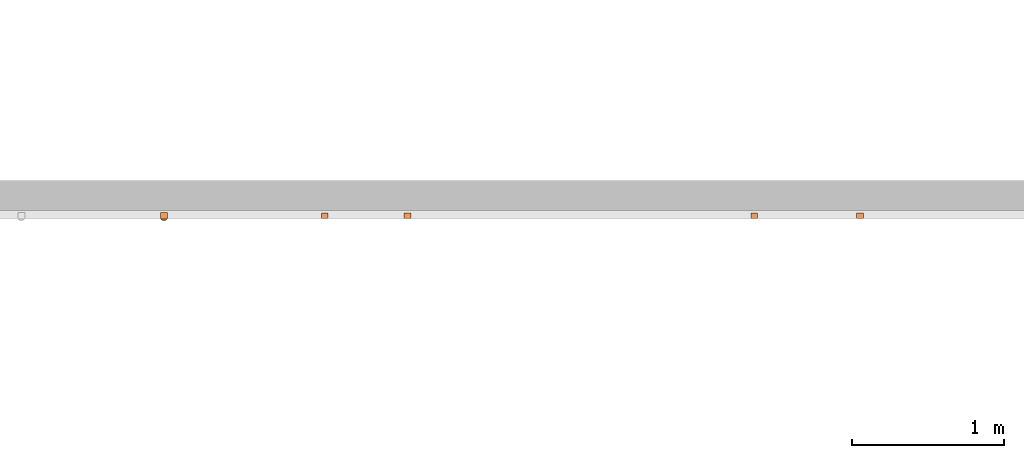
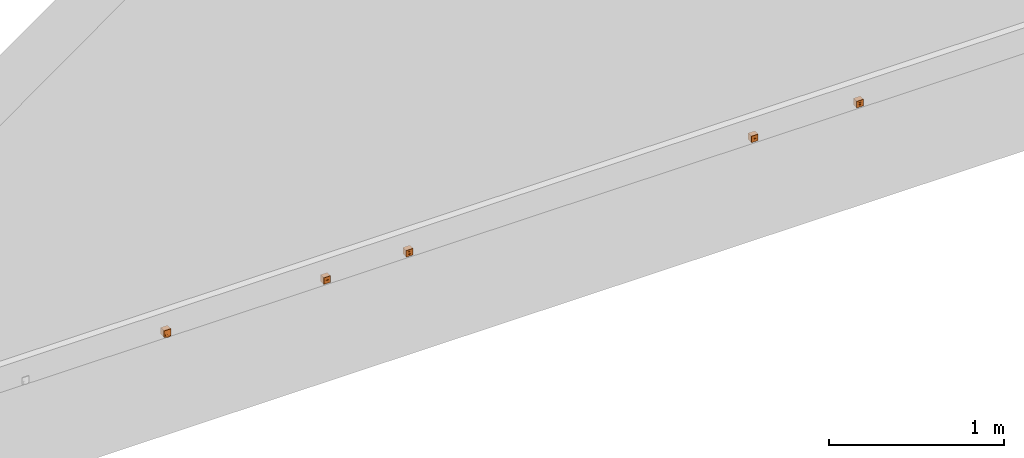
# One storey, part 191 of 197: 5 proxies.
"""IFC2X3 building model written with IfcOpenShell, lengths in metres."""

from ifc_helpers import new_model, entity, si_unit, converted_unit, direction, frame, origin, place, context, subcontext, project, spatial, faceted_brep, source, transform, mapped, material, material_list, type_object, type_shapes, element, save


model = new_model("IFC2X3")

# Units and contexts
model_context = context("Model", 3, precision=1e-05, world=origin(), true_north=direction((6.123031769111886e-17, 1.0)))
body_context = subcontext(model_context, "Body", "Model", "MODEL_VIEW")
ifc_project = project(units=[si_unit("LENGTHUNIT", "METRE"), converted_unit("PLANEANGLEUNIT", "DEGREE", entity("IfcPlaneAngleMeasure", 0.017453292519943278), si_unit("PLANEANGLEUNIT", "RADIAN"), dimensions=[0, 0, 0, 0, 0, 0, 0]), si_unit("AREAUNIT", "SQUARE_METRE")], contexts=[model_context])

# Site, building, storey
site_placement = place(None, origin())
site = spatial("IfcSite", under=ifc_project, at=site_placement, Name="Default", CompositionType="ELEMENT")
building_placement = place(site_placement, origin())
building = spatial("IfcBuilding", under=site, at=building_placement, CompositionType="ELEMENT")
storey_placement = place(building_placement, origin())
storey = spatial("IfcBuildingStorey", under=building, at=storey_placement, Name="Niveau 0", CompositionType="ELEMENT", Elevation=0.0)

# Proxies
ifc_material_1 = material(Name="<Unnamed>")
ifc_material_2 = material(Name="BETCE-ENVELOPPE SORTIE CABLE-BLANC")
ifc_material_list = material_list([ifc_material_1, ifc_material_2])
building_element_proxy_type_1 = type_object("IfcBuildingElementProxyType", Name="Prise HDMI+USB goulotte sur sortie de câble:2USB", PredefinedType="NOTDEFINED", material=ifc_material_list)
shared_shape_1 = source(origin(), body_context, "Body", "Brep", [
    faceted_brep([(0.022541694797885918, -0.004999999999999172, 0.022499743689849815), (-0.02254169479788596, -0.004999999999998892, 0.022499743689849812), (-0.02254169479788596, -0.004999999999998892, -0.022493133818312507), (0.022541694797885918, -0.004999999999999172, -0.022493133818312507), (0.022541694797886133, 0.030000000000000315, 0.022499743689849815), (0.022541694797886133, 0.030000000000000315, -0.022493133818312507), (-0.022541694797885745, 0.030000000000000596, -0.022493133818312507), (-0.022541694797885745, 0.030000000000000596, 0.022499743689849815)], [[[0, 1, 2, 3]], [[4, 5, 6, 7]], [[3, 5, 4, 0]], [[2, 6, 5, 3]], [[1, 7, 6, 2]], [[0, 4, 7, 1]]]),
    faceted_brep([(0.003958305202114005, -0.009999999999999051, -0.02250025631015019), (0.003958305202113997, -0.004999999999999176, -0.02250025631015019), (0.022458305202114, -0.004999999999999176, -0.02250025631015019), (0.022458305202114, -0.009999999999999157, -0.02250025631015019), (-0.004041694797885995, -0.009999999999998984, -0.02250025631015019), (-0.02254169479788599, -0.009999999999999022, -0.02250025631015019), (-0.02254169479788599, -0.004999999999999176, -0.02250025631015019), (-0.004041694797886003, -0.004999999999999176, -0.02250025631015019), (0.022458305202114, -0.009999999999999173, 0.02249974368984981), (0.022458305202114, -0.004999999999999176, 0.02249974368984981), (-0.02254169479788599, -0.0049999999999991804, 0.02249974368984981), (-0.02254169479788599, -0.009999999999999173, 0.02249974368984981), (-0.010873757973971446, -0.009999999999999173, 0.02249974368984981), (0.0007941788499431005, -0.009999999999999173, 0.02249974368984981), (0.01162624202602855, -0.009999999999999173, 0.02249974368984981), (0.02245830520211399, -0.009999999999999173, 0.015338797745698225), (0.02245830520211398, -0.009999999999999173, 0.008177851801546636), (0.022458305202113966, -0.009999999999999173, 0.0010169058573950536), (0.022458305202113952, -0.009999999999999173, -0.00614403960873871), (0.022458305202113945, -0.009999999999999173, -0.014322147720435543), (0.0030030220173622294, -0.0221448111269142, -0.014443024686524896), (0.009367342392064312, -0.019458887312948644, -0.01051610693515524), (0.0015145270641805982, -0.020564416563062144, -0.009313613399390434), (-0.005665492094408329, -0.023519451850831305, -0.0199653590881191), (-0.009264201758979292, -0.020068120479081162, -0.012321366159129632), (-0.011018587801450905, -0.021734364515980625, -0.020300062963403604), (0.013707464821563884, -0.013105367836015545, 0.007924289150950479), (0.002646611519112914, -0.01270448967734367, 0.014266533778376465), (0.004177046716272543, -0.01532420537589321, 0.005987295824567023), (-0.01975012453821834, -0.014822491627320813, -0.021596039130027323), (-0.015814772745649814, -0.01880146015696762, -0.020849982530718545), (-0.01664266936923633, -0.016769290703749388, -0.015016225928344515), (0.013145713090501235, -0.011571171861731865, 0.015236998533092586), (0.011201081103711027, -0.015533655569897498, 0.0010643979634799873), (0.004577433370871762, -0.018037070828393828, -0.0025082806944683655), (0.012444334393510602, -0.016711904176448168, -0.004940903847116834), (-0.02254169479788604, -0.009999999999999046, -0.014322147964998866), (0.014333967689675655, -0.018396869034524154, -0.015177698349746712), (0.017452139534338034, -0.014987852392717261, -0.009726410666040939), (0.010932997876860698, -0.02173538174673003, -0.02029987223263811), (0.0055804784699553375, -0.023519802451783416, -0.019965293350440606), (-0.014316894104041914, -0.015208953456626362, -0.001982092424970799), (-0.003418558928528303, -0.019056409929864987, -0.0051842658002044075), (-0.0034939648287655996, -0.01685011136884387, 0.0015118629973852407), (-4.243154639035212e-05, -0.024117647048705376, -0.019853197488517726), (0.01966548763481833, -0.01482411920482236, -0.021595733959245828), (0.015729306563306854, -0.018803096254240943, -0.020849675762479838), (-0.016281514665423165, -0.015643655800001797, -0.008621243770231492), (0.017376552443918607, -0.013536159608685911, -0.0014496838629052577), (-0.02254169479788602, -0.009999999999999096, 0.0010169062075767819), (-0.022541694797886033, -0.009999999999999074, -0.006144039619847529), (-0.013373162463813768, -0.011168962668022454, 0.016990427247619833), (-0.0064424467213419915, -0.012424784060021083, 0.014570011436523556), (-0.005276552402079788, -0.014560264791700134, 0.008075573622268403), (0.017488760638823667, -0.01263310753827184, 0.0036503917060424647), (-0.014251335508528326, -0.012267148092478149, 0.011249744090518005), (-0.022541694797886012, -0.009999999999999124, 0.008177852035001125), (-0.015880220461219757, -0.01315216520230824, 0.004597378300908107), (-0.022541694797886, -0.009999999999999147, 0.014321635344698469), (0.003958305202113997, -0.004999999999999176, -0.015000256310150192), (-0.004041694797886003, -0.004999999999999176, -0.015000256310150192), (-0.0010769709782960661, -0.017863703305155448, -0.015000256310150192), (-0.0020416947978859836, -0.017464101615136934, -0.015000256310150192), (-0.0028701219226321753, -0.016828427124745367, -0.015000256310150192), (-0.003505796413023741, -0.015999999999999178, -0.015000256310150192), (-0.00390539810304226, -0.015035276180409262, -0.015000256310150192), (-0.004041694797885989, -0.01399999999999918, -0.015000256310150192), (0.003958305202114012, -0.013999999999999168, -0.015000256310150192), (0.0038220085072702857, -0.01503527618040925, -0.015000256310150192), (0.0034224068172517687, -0.015999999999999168, -0.015000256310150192), (0.0027867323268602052, -0.01682842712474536, -0.015000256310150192), (0.0019583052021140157, -0.017464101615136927, -0.015000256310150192), (0.0009935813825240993, -0.017863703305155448, -0.015000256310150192), (-4.169479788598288e-05, -0.017999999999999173, -0.015000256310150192), (-0.004041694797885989, -0.013999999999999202, -0.01914530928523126), (-0.004041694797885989, -0.013999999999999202, -0.020447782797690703), (-0.004041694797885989, -0.01399999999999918, -0.021750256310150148), (0.003958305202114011, -0.01399999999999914, -0.02175025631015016), (0.003958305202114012, -0.01399999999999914, -0.020447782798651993), (0.003958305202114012, -0.01399999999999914, -0.019145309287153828), (0.0029523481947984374, -0.01665249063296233, -0.021252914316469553), (0.003842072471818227, -0.014957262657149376, -0.02157076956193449), (0.0035001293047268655, -0.01585889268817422, -0.021401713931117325), (0.001376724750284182, -0.01774006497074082, -0.021048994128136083), (0.002230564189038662, -0.01729193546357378, -0.021133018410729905), (0.00044045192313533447, -0.017970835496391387, -0.0210057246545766), (-0.0030357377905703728, -0.01665249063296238, -0.021252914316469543), (-0.00392546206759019, -0.014957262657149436, -0.021570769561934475), (-0.0023139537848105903, -0.017291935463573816, -0.021133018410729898), (-0.001460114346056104, -0.01774006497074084, -0.02104899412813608), (-0.0005238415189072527, -0.017970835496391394, -0.0210057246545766), (-0.0035835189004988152, -0.015858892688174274, -0.021401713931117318)], [[[0, 1, 2, 3]], [[4, 5, 6, 7]], [[8, 9, 10, 11, 12, 13, 14]], [[9, 8, 15, 16, 17, 18, 19, 3, 2]], [[20, 21, 22]], [[23, 24, 25]], [[26, 27, 28]], [[29, 30, 31]], [[14, 27, 32]], [[33, 34, 35]], [[36, 29, 31]], [[30, 25, 31]], [[36, 5, 29]], [[21, 37, 38]], [[24, 23, 20]], [[39, 20, 40]], [[20, 37, 21]], [[39, 37, 20]], [[41, 42, 43]], [[40, 20, 44]], [[37, 19, 38]], [[19, 45, 3]], [[39, 46, 37]], [[46, 45, 37]], [[44, 20, 23]], [[31, 24, 47]], [[42, 24, 22]], [[31, 47, 36]], [[19, 37, 45]], [[34, 33, 28]], [[33, 35, 48]], [[49, 50, 41]], [[48, 35, 38]], [[51, 52, 12]], [[28, 43, 34]], [[28, 27, 53]], [[21, 38, 35]], [[18, 38, 19]], [[34, 22, 21]], [[54, 48, 17]], [[35, 34, 21]], [[38, 18, 48]], [[42, 34, 43]], [[42, 47, 24]], [[28, 53, 43]], [[55, 56, 57]], [[56, 49, 57]], [[12, 11, 51]], [[26, 28, 33]], [[16, 15, 8, 32]], [[54, 17, 16]], [[41, 43, 57]], [[13, 52, 27]], [[26, 16, 32]], [[14, 13, 27]], [[55, 53, 52]], [[56, 55, 58]], [[27, 52, 53]], [[57, 43, 53]], [[55, 57, 53]], [[57, 49, 41]], [[20, 22, 24]], [[42, 22, 34]], [[55, 52, 51]], [[12, 52, 13]], [[26, 33, 54]], [[17, 48, 18]], [[48, 54, 33]], [[26, 54, 16]], [[51, 58, 55]], [[58, 51, 11]], [[50, 36, 47]], [[24, 31, 25]], [[47, 41, 50]], [[41, 47, 42]], [[26, 32, 27]], [[14, 32, 8]], [[5, 36, 50, 49, 56, 58, 11, 10, 6]], [[2, 1, 59, 60, 7, 6, 10, 9]], [[61, 62, 63, 64, 65, 66, 60, 59, 67, 68, 69, 70, 71, 72, 73]], [[60, 66, 74, 75, 76, 4, 7]], [[67, 59, 1, 0, 77, 78, 79]], [[78, 80, 79]], [[77, 81, 78]], [[78, 82, 80]], [[82, 78, 81]], [[79, 83, 72]], [[79, 84, 83]], [[79, 80, 84]], [[69, 68, 79]], [[67, 79, 68]], [[72, 85, 73]], [[71, 79, 72]], [[79, 71, 70]], [[69, 79, 70]], [[85, 72, 83]], [[74, 86, 75]], [[87, 76, 75]], [[88, 74, 89]], [[90, 89, 61]], [[66, 65, 74]], [[75, 86, 91]], [[91, 87, 75]], [[86, 74, 88]], [[74, 61, 89]], [[61, 73, 90]], [[74, 64, 63]], [[63, 62, 74]], [[61, 74, 62]], [[74, 65, 64]], [[90, 73, 85]], [[5, 4, 76, 87, 91, 86, 88, 89, 90, 85, 83, 84, 80, 82, 81, 77, 0, 3, 45, 46, 39, 40, 44, 23, 25, 30, 29]]]),
])
type_shapes(building_element_proxy_type_1, [shared_shape_1])
proxy_1_placement = place(storey_placement, frame((-412.8334485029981, 76.46896719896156, 0.7524972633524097)))
element("IfcBuildingElementProxy", 1, at=proxy_1_placement, inside=storey, type_object=building_element_proxy_type_1, material=ifc_material_list, Name="Prise HDMI+USB goulotte sur sortie de câble:2USB", ObjectType="Prise HDMI+USB goulotte sur sortie de câble:2USB", context=body_context, shape_type="MappedRepresentation", body=[
    mapped(shared_shape_1, transform((0.0, 0.0, 0.0), scale=1.0)),
])
ifc_material_3 = material(Name="BETCE-ENJOLIVEUR HDMI-BLANC")
building_element_proxy_type_2 = type_object("IfcBuildingElementProxyType", Name="Prise simple HDMI goulotte:1HDMI", PredefinedType="NOTDEFINED", material=ifc_material_3)
shared_shape_2 = source(origin(), body_context, "Body", "Brep", [
    faceted_brep([(0.004758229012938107, 0.0, 0.0230572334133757), (-0.004844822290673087, 0.0, 0.0230572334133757), (-0.004844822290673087, -0.008993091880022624, 0.0230572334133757), (0.004758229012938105, -0.008993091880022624, 0.0230572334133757), (0.004758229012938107, 0.0, 0.0221220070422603), (0.004758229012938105, -0.008993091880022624, 0.0221220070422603), (-0.004844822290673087, -0.008993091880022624, 0.0221220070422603), (-0.004844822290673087, 0.0, 0.0221220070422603)], [[[0, 1, 2, 3]], [[4, 5, 6, 7]], [[1, 0, 4, 7]], [[2, 1, 7, 6]], [[3, 2, 6, 5]], [[0, 3, 5, 4]]]),
    faceted_brep([(0.022455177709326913, -0.00899309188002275, 0.044997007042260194), (-0.022544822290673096, -0.0089930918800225, 0.044997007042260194), (-0.0225448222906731, -0.0089930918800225, -2.992957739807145e-06), (0.022455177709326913, -0.00899309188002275, -2.992957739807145e-06), (-0.007044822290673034, -0.008993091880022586, 0.024452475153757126), (-0.0001901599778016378, -0.008993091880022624, 0.024452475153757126), (0.006955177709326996, -0.008993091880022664, 0.024452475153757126), (0.006955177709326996, -0.008993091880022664, 0.0221220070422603), (0.006155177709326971, -0.008993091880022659, 0.0221220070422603), (0.004655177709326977, -0.00899309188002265, 0.0206220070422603), (-0.004744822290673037, -0.0089930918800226, 0.0206220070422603), (-0.006244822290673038, -0.008993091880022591, 0.0221220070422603), (-0.007044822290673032, -0.008993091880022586, 0.0221220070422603), (0.022455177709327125, 0.02900690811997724, 0.044997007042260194), (0.022455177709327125, 0.02900690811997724, -2.992957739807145e-06), (-0.022544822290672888, 0.02900690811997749, -2.992957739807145e-06), (-0.022544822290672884, 0.02900690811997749, 0.044997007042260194), (-0.007044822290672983, 0.0, 0.024452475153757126), (-0.007044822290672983, 0.0, 0.0221220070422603), (-0.006244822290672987, 0.0, 0.0221220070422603), (-0.0047448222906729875, 0.0, 0.0206220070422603), (0.0046551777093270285, 0.0, 0.0206220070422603), (0.006155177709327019, 0.0, 0.0221220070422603), (0.006955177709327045, 0.0, 0.0221220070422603), (0.006955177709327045, 0.0, 0.024452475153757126), (-0.00019015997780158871, 0.0, 0.024452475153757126)], [[[0, 1, 2, 3], [4, 5, 6, 7, 8, 9, 10, 11, 12]], [[13, 14, 15, 16]], [[1, 0, 13, 16]], [[2, 1, 16, 15]], [[3, 2, 15, 14]], [[0, 3, 14, 13]], [[17, 18, 19, 20, 21, 22, 23, 24, 25]], [[17, 25, 5, 4]], [[25, 24, 6, 5]], [[24, 23, 7, 6]], [[23, 22, 8, 7]], [[22, 21, 9, 8]], [[21, 20, 10, 9]], [[20, 19, 11, 10]], [[19, 18, 12, 11]], [[18, 17, 4, 12]]]),
])
type_shapes(building_element_proxy_type_2, [shared_shape_2])
proxy_2_placement = place(storey_placement, frame((-411.7754485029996, 76.46896719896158, 0.7299999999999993)))
element("IfcBuildingElementProxy", 2, at=proxy_2_placement, inside=storey, type_object=building_element_proxy_type_2, material=ifc_material_3, Name="Prise simple HDMI goulotte:1HDMI", ObjectType="Prise simple HDMI goulotte:1HDMI", context=body_context, shape_type="MappedRepresentation", body=[
    mapped(shared_shape_2, transform((0.0, 0.0, 0.0), scale=1.0)),
])
building_element_proxy_type_3 = type_object("IfcBuildingElementProxyType", Name="Prise double HDMI goulotte:2HDMI", PredefinedType="NOTDEFINED", material=ifc_material_3)
shared_shape_3 = source(origin(), body_context, "Body", "Brep", [
    faceted_brep([(0.004758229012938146, 0.0, 0.03205723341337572), (-0.004844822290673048, 0.0, 0.03205723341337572), (-0.004844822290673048, -0.008993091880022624, 0.03205723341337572), (0.004758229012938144, -0.008993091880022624, 0.03205723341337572), (0.004758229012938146, 0.0, 0.031122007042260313), (0.004758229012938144, -0.008993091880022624, 0.031122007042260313), (-0.004844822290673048, -0.008993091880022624, 0.031122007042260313), (-0.004844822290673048, 0.0, 0.031122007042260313)], [[[0, 1, 2, 3]], [[4, 5, 6, 7]], [[1, 0, 4, 7]], [[2, 1, 7, 6]], [[3, 2, 6, 5]], [[0, 3, 5, 4]]]),
    faceted_brep([(0.004758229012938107, 0.0, 0.01405723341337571), (-0.004844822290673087, 0.0, 0.01405723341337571), (-0.004844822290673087, -0.008993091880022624, 0.01405723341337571), (0.004758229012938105, -0.008993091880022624, 0.01405723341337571), (0.004758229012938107, 0.0, 0.013122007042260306), (0.004758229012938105, -0.008993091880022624, 0.013122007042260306), (-0.004844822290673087, -0.008993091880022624, 0.013122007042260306), (-0.004844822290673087, 0.0, 0.013122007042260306)], [[[0, 1, 2, 3]], [[4, 5, 6, 7]], [[1, 0, 4, 7]], [[2, 1, 7, 6]], [[3, 2, 6, 5]], [[0, 3, 5, 4]]]),
    faceted_brep([(0.022455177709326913, -0.00899309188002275, 0.044997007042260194), (-0.022544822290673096, -0.0089930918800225, 0.044997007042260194), (-0.0225448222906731, -0.0089930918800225, -2.992957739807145e-06), (0.022455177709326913, -0.00899309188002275, -2.992957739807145e-06), (-0.007044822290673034, -0.008993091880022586, 0.015452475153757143), (-0.0001901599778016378, -0.008993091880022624, 0.015452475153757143), (0.006955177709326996, -0.008993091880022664, 0.015452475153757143), (0.006955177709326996, -0.008993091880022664, 0.013122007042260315), (0.006155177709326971, -0.008993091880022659, 0.013122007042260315), (0.004655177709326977, -0.00899309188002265, 0.011622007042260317), (-0.004744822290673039, -0.0089930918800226, 0.011622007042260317), (-0.006244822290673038, -0.008993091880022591, 0.013122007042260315), (-0.007044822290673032, -0.008993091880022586, 0.013122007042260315), (-0.007044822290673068, -0.008993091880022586, 0.033452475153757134), (-0.00019015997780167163, -0.008993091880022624, 0.033452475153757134), (0.0069551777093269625, -0.008993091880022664, 0.033452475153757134), (0.006955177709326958, -0.008993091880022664, 0.03112200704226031), (0.006155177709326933, -0.008993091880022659, 0.03112200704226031), (0.0046551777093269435, -0.00899309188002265, 0.029622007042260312), (-0.004744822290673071, -0.0089930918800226, 0.029622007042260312), (-0.006244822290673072, -0.008993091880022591, 0.03112200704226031), (-0.0070448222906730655, -0.008993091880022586, 0.03112200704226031), (0.022455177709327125, 0.02900690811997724, 0.044997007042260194), (0.022455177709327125, 0.02900690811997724, -2.992957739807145e-06), (-0.022544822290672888, 0.02900690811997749, -2.992957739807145e-06), (-0.022544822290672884, 0.02900690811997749, 0.044997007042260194), (-0.007044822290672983, 0.0, 0.015452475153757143), (-0.007044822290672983, 0.0, 0.013122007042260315), (-0.006244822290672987, 0.0, 0.013122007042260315), (-0.0047448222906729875, 0.0, 0.011622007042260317), (0.0046551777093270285, 0.0, 0.011622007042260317), (0.006155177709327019, 0.0, 0.013122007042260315), (0.006955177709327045, 0.0, 0.013122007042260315), (0.006955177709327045, 0.0, 0.015452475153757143), (-0.00019015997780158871, 0.0, 0.015452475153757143), (-0.007044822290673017, 0.0, 0.033452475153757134), (-0.007044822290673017, 0.0, 0.03112200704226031), (-0.006244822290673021, 0.0, 0.03112200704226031), (-0.004744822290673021, 0.0, 0.029622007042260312), (0.004655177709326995, 0.0, 0.029622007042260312), (0.0061551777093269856, 0.0, 0.03112200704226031), (0.006955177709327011, 0.0, 0.03112200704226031), (0.006955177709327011, 0.0, 0.033452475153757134), (-0.00019015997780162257, 0.0, 0.033452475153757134)], [[[0, 1, 2, 3], [4, 5, 6, 7, 8, 9, 10, 11, 12], [13, 14, 15, 16, 17, 18, 19, 20, 21]], [[22, 23, 24, 25]], [[1, 0, 22, 25]], [[2, 1, 25, 24]], [[3, 2, 24, 23]], [[0, 3, 23, 22]], [[26, 27, 28, 29, 30, 31, 32, 33, 34]], [[26, 34, 5, 4]], [[34, 33, 6, 5]], [[33, 32, 7, 6]], [[32, 31, 8, 7]], [[31, 30, 9, 8]], [[30, 29, 10, 9]], [[29, 28, 11, 10]], [[28, 27, 12, 11]], [[27, 26, 4, 12]], [[35, 36, 37, 38, 39, 40, 41, 42, 43]], [[35, 43, 14, 13]], [[43, 42, 15, 14]], [[42, 41, 16, 15]], [[41, 40, 17, 16]], [[40, 39, 18, 17]], [[39, 38, 19, 18]], [[38, 37, 20, 19]], [[37, 36, 21, 20]], [[36, 35, 13, 21]]]),
])
type_shapes(building_element_proxy_type_3, [shared_shape_3])
proxy_3_placement = place(storey_placement, frame((-411.23095228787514, 76.46896719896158, 0.7299999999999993)))
element("IfcBuildingElementProxy", 3, at=proxy_3_placement, inside=storey, type_object=building_element_proxy_type_3, material=ifc_material_3, Name="Prise double HDMI goulotte:2HDMI", ObjectType="Prise double HDMI goulotte:2HDMI", context=body_context, shape_type="MappedRepresentation", body=[
    mapped(shared_shape_3, transform((0.0, 0.0, 0.0), scale=1.0)),
])
ifc_material_4 = material(Name="BETCE-ENJOLIVEUR USB-BLANC")
building_element_proxy_type_4 = type_object("IfcBuildingElementProxyType", Name="Prise simple USB goulotte:1USB", PredefinedType="NOTDEFINED", material=ifc_material_4)
shared_shape_4 = source(origin(), body_context, "Body", "Brep", [
    faceted_brep([(0.004758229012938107, 0.0, 0.023557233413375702), (-0.004844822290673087, 0.0, 0.023557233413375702), (-0.004844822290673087, -0.008993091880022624, 0.023557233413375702), (0.004758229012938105, -0.008993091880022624, 0.023557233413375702), (0.004758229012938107, 0.0, 0.0226220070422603), (0.004758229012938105, -0.008993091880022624, 0.0226220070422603), (-0.004844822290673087, -0.008993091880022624, 0.0226220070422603), (-0.004844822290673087, 0.0, 0.0226220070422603)], [[[0, 1, 2, 3]], [[4, 5, 6, 7]], [[1, 0, 4, 7]], [[2, 1, 7, 6]], [[3, 2, 6, 5]], [[0, 3, 5, 4]]]),
    faceted_brep([(0.022455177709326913, -0.00899309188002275, 0.044997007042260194), (-0.022544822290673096, -0.0089930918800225, 0.044997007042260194), (-0.0225448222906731, -0.0089930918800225, -2.992957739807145e-06), (0.022455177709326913, -0.00899309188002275, -2.992957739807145e-06), (-0.007044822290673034, -0.008993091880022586, 0.024452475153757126), (-0.0001901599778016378, -0.008993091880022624, 0.024452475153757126), (0.006955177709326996, -0.008993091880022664, 0.024452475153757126), (0.006955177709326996, -0.008993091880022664, 0.0206220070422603), (-0.007044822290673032, -0.008993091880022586, 0.0206220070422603), (0.022455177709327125, 0.02900690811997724, 0.044997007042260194), (0.022455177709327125, 0.02900690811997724, -2.992957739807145e-06), (-0.022544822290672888, 0.02900690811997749, -2.992957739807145e-06), (-0.022544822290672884, 0.02900690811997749, 0.044997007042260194), (-0.007044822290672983, 0.0, 0.024452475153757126), (-0.007044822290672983, 0.0, 0.0206220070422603), (0.006955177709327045, 0.0, 0.0206220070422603), (0.006955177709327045, 0.0, 0.024452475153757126), (-0.00019015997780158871, 0.0, 0.024452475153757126)], [[[0, 1, 2, 3], [4, 5, 6, 7, 8]], [[9, 10, 11, 12]], [[1, 0, 9, 12]], [[2, 1, 12, 11]], [[3, 2, 11, 10]], [[0, 3, 10, 9]], [[13, 14, 15, 16, 17]], [[13, 17, 5, 4]], [[17, 16, 6, 5]], [[16, 15, 7, 6]], [[15, 14, 8, 7]], [[14, 13, 4, 8]]]),
])
type_shapes(building_element_proxy_type_4, [shared_shape_4])
proxy_4_placement = place(storey_placement, frame((-408.9464485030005, 76.46896719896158, 0.7299999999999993)))
element("IfcBuildingElementProxy", 4, at=proxy_4_placement, inside=storey, type_object=building_element_proxy_type_4, material=ifc_material_4, Name="Prise simple USB goulotte:1USB", ObjectType="Prise simple USB goulotte:1USB", context=body_context, shape_type="MappedRepresentation", body=[
    mapped(shared_shape_4, transform((0.0, 0.0, 0.0), scale=1.0)),
])
building_element_proxy_type_5 = type_object("IfcBuildingElementProxyType", Name="Prise double USB goulotte:2USB", PredefinedType="NOTDEFINED", material=ifc_material_4)
shared_shape_5 = source(origin(), body_context, "Body", "Brep", [
    faceted_brep([(0.004758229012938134, 0.0, 0.03023223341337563), (-0.004844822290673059, 0.0, 0.03023223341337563), (-0.004844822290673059, -0.008993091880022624, 0.03023223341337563), (0.0047582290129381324, -0.008993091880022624, 0.03023223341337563), (0.004758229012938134, 0.0, 0.029297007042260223), (0.0047582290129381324, -0.008993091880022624, 0.029297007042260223), (-0.004844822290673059, -0.008993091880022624, 0.029297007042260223), (-0.004844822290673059, 0.0, 0.029297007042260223)], [[[0, 1, 2, 3]], [[4, 5, 6, 7]], [[1, 0, 4, 7]], [[2, 1, 7, 6]], [[3, 2, 6, 5]], [[0, 3, 5, 4]]]),
    faceted_brep([(0.004758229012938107, 0.0, 0.016957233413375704), (-0.004844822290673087, 0.0, 0.016957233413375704), (-0.004844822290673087, -0.008993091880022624, 0.016957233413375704), (0.004758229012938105, -0.008993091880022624, 0.016957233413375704), (0.004758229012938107, 0.0, 0.0160220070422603), (0.004758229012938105, -0.008993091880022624, 0.0160220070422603), (-0.004844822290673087, -0.008993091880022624, 0.0160220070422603), (-0.004844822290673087, 0.0, 0.0160220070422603)], [[[0, 1, 2, 3]], [[4, 5, 6, 7]], [[1, 0, 4, 7]], [[2, 1, 7, 6]], [[3, 2, 6, 5]], [[0, 3, 5, 4]]]),
    faceted_brep([(0.022455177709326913, -0.00899309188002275, 0.044997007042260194), (-0.022544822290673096, -0.0089930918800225, 0.044997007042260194), (-0.0225448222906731, -0.0089930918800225, -2.992957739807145e-06), (0.022455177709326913, -0.00899309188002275, -2.992957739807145e-06), (-0.007044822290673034, -0.008993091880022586, 0.01785247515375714), (-0.0001901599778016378, -0.008993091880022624, 0.01785247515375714), (0.006955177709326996, -0.008993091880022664, 0.01785247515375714), (0.006955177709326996, -0.008993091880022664, 0.014022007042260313), (-0.007044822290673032, -0.008993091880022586, 0.014022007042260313), (-0.0070448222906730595, -0.008993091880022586, 0.031127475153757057), (-0.00019015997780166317, -0.008993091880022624, 0.031127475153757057), (0.00695517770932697, -0.008993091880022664, 0.031127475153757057), (0.006955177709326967, -0.008993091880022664, 0.02729700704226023), (-0.007044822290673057, -0.008993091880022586, 0.02729700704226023), (0.022455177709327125, 0.02900690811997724, 0.044997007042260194), (0.022455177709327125, 0.02900690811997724, -2.992957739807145e-06), (-0.022544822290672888, 0.02900690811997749, -2.992957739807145e-06), (-0.022544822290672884, 0.02900690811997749, 0.044997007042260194), (-0.007044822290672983, 0.0, 0.01785247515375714), (-0.007044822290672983, 0.0, 0.014022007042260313), (0.006955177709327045, 0.0, 0.014022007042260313), (0.006955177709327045, 0.0, 0.01785247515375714), (-0.00019015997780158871, 0.0, 0.01785247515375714), (-0.007044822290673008, 0.0, 0.031127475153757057), (-0.007044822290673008, 0.0, 0.02729700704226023), (0.00695517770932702, 0.0, 0.02729700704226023), (0.00695517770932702, 0.0, 0.031127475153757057), (-0.0001901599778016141, 0.0, 0.031127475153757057)], [[[0, 1, 2, 3], [4, 5, 6, 7, 8], [9, 10, 11, 12, 13]], [[14, 15, 16, 17]], [[1, 0, 14, 17]], [[2, 1, 17, 16]], [[3, 2, 16, 15]], [[0, 3, 15, 14]], [[18, 19, 20, 21, 22]], [[18, 22, 5, 4]], [[22, 21, 6, 5]], [[21, 20, 7, 6]], [[20, 19, 8, 7]], [[19, 18, 4, 8]], [[23, 24, 25, 26, 27]], [[23, 27, 10, 9]], [[27, 26, 11, 10]], [[26, 25, 12, 11]], [[25, 24, 13, 12]], [[24, 23, 9, 13]]]),
])
type_shapes(building_element_proxy_type_5, [shared_shape_5])
proxy_5_placement = place(storey_placement, frame((-408.2504485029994, 76.46896719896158, 0.7299999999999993)))
element("IfcBuildingElementProxy", 5, at=proxy_5_placement, inside=storey, type_object=building_element_proxy_type_5, material=ifc_material_4, Name="Prise double USB goulotte:2USB", ObjectType="Prise double USB goulotte:2USB", context=body_context, shape_type="MappedRepresentation", body=[
    mapped(shared_shape_5, transform((0.0, 0.0, 0.0), scale=1.0)),
])

save(model, "model.ifc")
